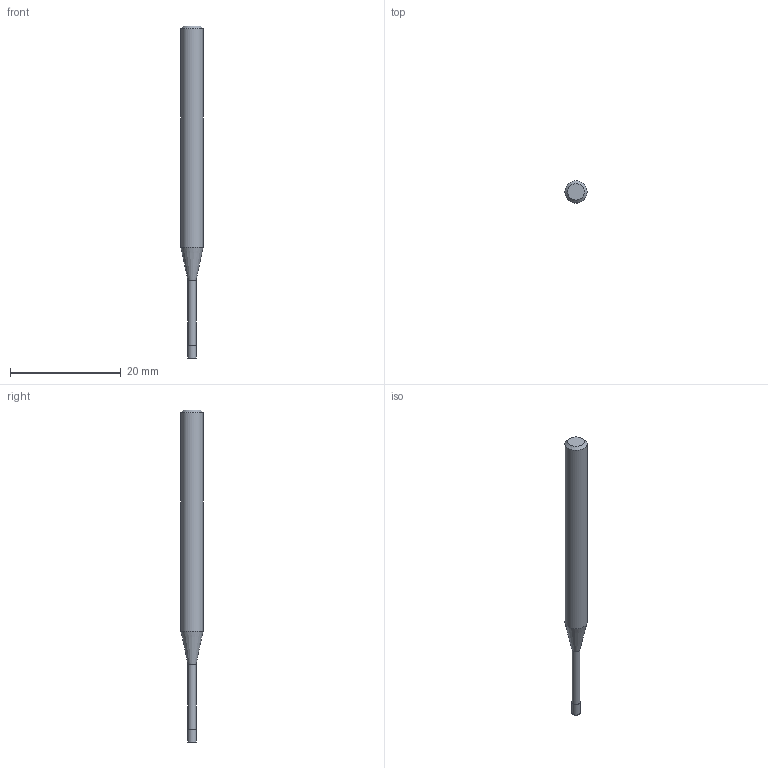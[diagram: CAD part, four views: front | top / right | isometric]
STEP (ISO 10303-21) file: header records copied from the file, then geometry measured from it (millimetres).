
FILE_DESCRIPTION((''),'2;1');
FILE_NAME('C:\Users\nsx150\AppData\Local\Temp\Mastercam 2021\17T8Q8S9EB\TEMP.step','2021-04-21T14:26:42',(''),(''),'STEP Write','Mastercam 2021 ... CNC Software, Inc.','');
FILE_SCHEMA(('AUTOMOTIVE_DESIGN'));
Length unit declared in the file: millimetre
Products named in the file (1): None
Bounding box: 4 x 4 x 60 mm (x, y, z)
Volume: 562.2 mm3; surface area: 633.1 mm2
Topology: 2 solids, 2 shells, 9 faces, 12 edges, 7 vertices
Faces by surface type: plane 4, cylinder 3, cone 2
Full cylindrical faces by diameter (mm): 1.45 x1, 1.5 x1, 4 x1
Entity records: 211 total; most frequent: DIRECTION 36, CARTESIAN_POINT 25, AXIS2_PLACEMENT_3D 18, ORIENTED_EDGE 14, EDGE_LOOP 14, STYLED_ITEM 12, ADVANCED_FACE 9, FACE_BOUND 8
